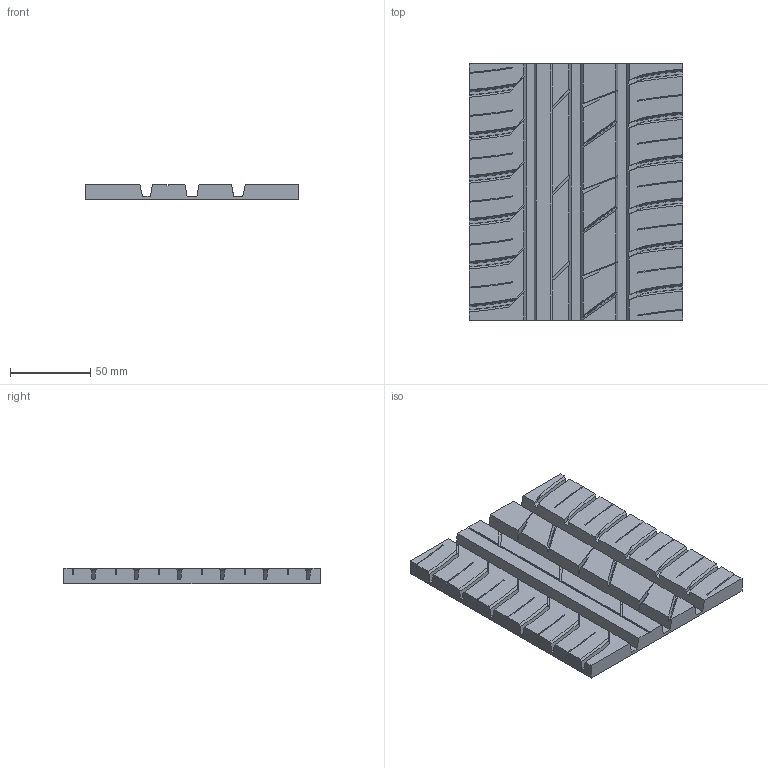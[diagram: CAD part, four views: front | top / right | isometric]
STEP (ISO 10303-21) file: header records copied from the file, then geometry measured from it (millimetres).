
FILE_DESCRIPTION(/* description */ (''),/* implementation_level */ '2;1');
FILE_NAME(/* name */ '191_SD_Flat.stp',/* time_stamp */ '2018-05-15T09:17:19+06:00',/* author */ (''),/* organization */ (''),/* preprocessor_version */ 'ST-DEVELOPER v16',/* originating_system */ 'SIEMENS PLM Software NX 10.0',/* authorisation */ '');
FILE_SCHEMA (('AP203_CONFIGURATION_CONTROLLED_3D_DESIGN_OF_MECHANICAL_PARTS_AND_ASSEMBLIES_MIM_LF { 1 0 10303 403 2 1 2}'));
Length unit declared in the file: millimetre
Products named in the file (1): anki02B03A7Br39v
Bounding box: 133 x 160 x 9.6 mm (x, y, z)
Volume: 170722.4 mm3; surface area: 62916.6 mm2
Topology: 1 solids, 1 shells, 286 faces, 841 edges, 557 vertices
Faces by surface type: plane 205, cone 48, cylinder 24, bspline 9
Entity records: 9976 total; most frequent: CARTESIAN_POINT 2501, ORIENTED_EDGE 1682, DIRECTION 1374, EDGE_CURVE 841, VERTEX_POINT 557, LINE 506, VECTOR 506, AXIS2_PLACEMENT_3D 434
